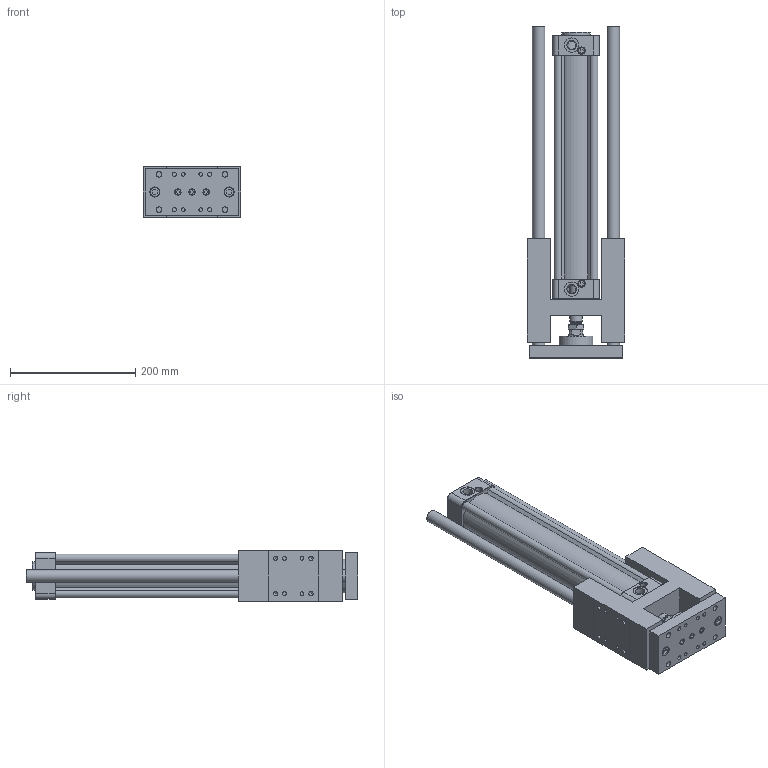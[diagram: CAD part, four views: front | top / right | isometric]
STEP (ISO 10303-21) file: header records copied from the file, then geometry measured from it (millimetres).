
FILE_DESCRIPTION((''),'2;1');
FILE_NAME('I:\3D電子目錄\氣缸\GHB(U)\GHB(U)\GHB(U)63\GHB(U)63x300.stp','2007-10-22T13:14:38',('Administrator'),(''),'Autodesk Inventor 11','Autodesk Inventor 11','');
FILE_SCHEMA(('AUTOMOTIVE_DESIGN { 1 0 10303 214 1 1 1 1 }'));
Length unit declared in the file: millimetre
Products named in the file (1): GHB(U)63
Bounding box: 156 x 530 x 80 mm (x, y, z)
Volume: 2203419.4 mm3; surface area: 488839.4 mm2
Topology: 1 solids, 13 shells, 789 faces, 1754 edges, 1088 vertices
Faces by surface type: plane 303, bspline 237, cylinder 159, cone 88, torus 2
Full cylindrical faces by diameter (mm): 2.5 x2, 6 x4, 6.647 x4, 6.7 x2, 6.75 x4, 7.25 x4, 7.4 x4, 7.5 x2, 8.5 x9, 9 x2, 9.8 x4, 10 x5, 11.5 x1, 11.9 x1, 12 x3, 13 x4, 14 x8, 14.5 x2, 16 x3, 20 x4, 23 x3, 25 x1, 26 x2, 45 x1, 54 x1, 63 x1
Entity records: 22867 total; most frequent: CARTESIAN_POINT 7086, DIRECTION 3132, ORIENTED_EDGE 3076, EDGE_CURVE 1538, AXIS2_PLACEMENT_3D 1207, EDGE_LOOP 1075, VERTEX_POINT 1047, FACE_OUTER_BOUND 789
